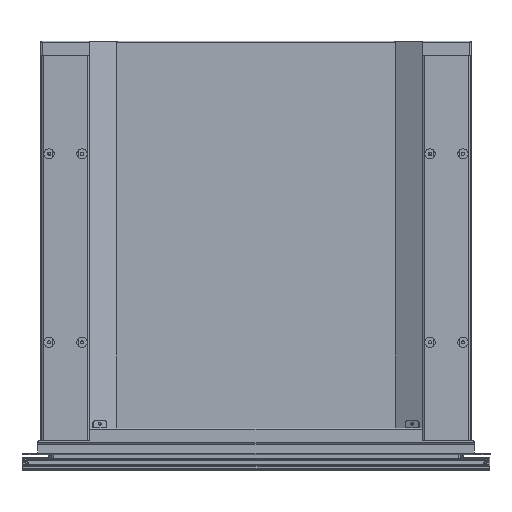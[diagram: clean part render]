
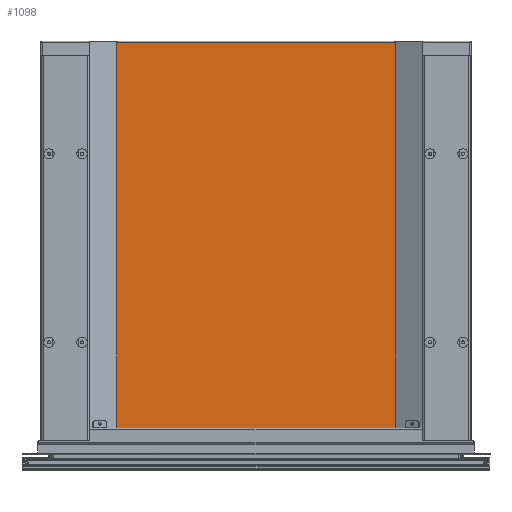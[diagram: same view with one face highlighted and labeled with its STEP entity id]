
A CAD part, top view. The second image highlights one B-rep face of the part: STEP entity #1098.
In plain terms, the highlighted planar face has unit normal (0, 0, 1).
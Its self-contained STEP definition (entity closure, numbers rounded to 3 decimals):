
#1098=ADVANCED_FACE('',(#2463),#19065,.T.);
#2463=FACE_OUTER_BOUND('',#3804,.T.);
#3804=EDGE_LOOP('',(#9112,#9113,#9114,#9115,#9116,#9117,#9118,#9119,#9120,
#9121,#9122,#9123,#9124,#9125));
#9112=ORIENTED_EDGE('',*,*,#12357,.T.);
#9113=ORIENTED_EDGE('',*,*,#12362,.T.);
#9114=ORIENTED_EDGE('',*,*,#12364,.T.);
#9115=ORIENTED_EDGE('',*,*,#12358,.T.);
#9116=ORIENTED_EDGE('',*,*,#12455,.T.);
#9117=ORIENTED_EDGE('',*,*,#12359,.T.);
#9118=ORIENTED_EDGE('',*,*,#12451,.T.);
#9119=ORIENTED_EDGE('',*,*,#12360,.T.);
#9120=ORIENTED_EDGE('',*,*,#12363,.T.);
#9121=ORIENTED_EDGE('',*,*,#12365,.T.);
#9122=ORIENTED_EDGE('',*,*,#12361,.T.);
#9123=ORIENTED_EDGE('',*,*,#12350,.T.);
#9124=ORIENTED_EDGE('',*,*,#12479,.F.);
#9125=ORIENTED_EDGE('',*,*,#12356,.T.);
#12350=EDGE_CURVE('',#17933,#17931,#16062,.T.);
#12356=EDGE_CURVE('',#17936,#17938,#16068,.T.);
#12357=EDGE_CURVE('',#17938,#17939,#16069,.T.);
#12358=EDGE_CURVE('',#17940,#17941,#16070,.T.);
#12359=EDGE_CURVE('',#17942,#17943,#16071,.T.);
#12360=EDGE_CURVE('',#17944,#17945,#16072,.T.);
#12361=EDGE_CURVE('',#17946,#17933,#16073,.T.);
#12362=EDGE_CURVE('',#17939,#17971,#16074,.T.);
#12363=EDGE_CURVE('',#17945,#17969,#16075,.T.);
#12364=EDGE_CURVE('',#17971,#17940,#16076,.T.);
#12365=EDGE_CURVE('',#17969,#17946,#16077,.T.);
#12451=EDGE_CURVE('',#17943,#17944,#16139,.T.);
#12455=EDGE_CURVE('',#17941,#17942,#16143,.T.);
#12479=EDGE_CURVE('',#17936,#17931,#16167,.T.);
#16062=B_SPLINE_CURVE_WITH_KNOTS('',1,(#42090,#42091),.UNSPECIFIED.,.F.,
 .F.,(2,2),(-0.002,0.),.UNSPECIFIED.);
#16068=B_SPLINE_CURVE_WITH_KNOTS('',1,(#42102,#42103),.UNSPECIFIED.,.F.,
 .F.,(2,2),(-0.002,0.),.UNSPECIFIED.);
#16069=B_SPLINE_CURVE_WITH_KNOTS('',1,(#42104,#42105),.UNSPECIFIED.,.F.,
 .F.,(2,2),(0.,521.4),.UNSPECIFIED.);
#16070=B_SPLINE_CURVE_WITH_KNOTS('',1,(#42106,#42107),.UNSPECIFIED.,.F.,
 .F.,(2,2),(0.,9.4),.UNSPECIFIED.);
#16071=B_SPLINE_CURVE_WITH_KNOTS('',1,(#42108,#42109),.UNSPECIFIED.,.F.,
 .F.,(2,2),(0.,14.),.UNSPECIFIED.);
#16072=B_SPLINE_CURVE_WITH_KNOTS('',1,(#42110,#42111),.UNSPECIFIED.,.F.,
 .F.,(2,2),(0.,9.4),.UNSPECIFIED.);
#16073=B_SPLINE_CURVE_WITH_KNOTS('',1,(#42112,#42113),.UNSPECIFIED.,.F.,
 .F.,(2,2),(0.,521.4),.UNSPECIFIED.);
#16074=B_SPLINE_CURVE_WITH_KNOTS('',1,(#42114,#42115),.UNSPECIFIED.,.F.,
 .F.,(2,2),(0.,0.002),.UNSPECIFIED.);
#16075=B_SPLINE_CURVE_WITH_KNOTS('',1,(#42116,#42117),.UNSPECIFIED.,.F.,
 .F.,(2,2),(0.,164.916),.UNSPECIFIED.);
#16076=B_SPLINE_CURVE_WITH_KNOTS('',1,(#42118,#42119),.UNSPECIFIED.,.F.,
 .F.,(2,2),(0.002,164.918),.UNSPECIFIED.);
#16077=B_SPLINE_CURVE_WITH_KNOTS('',1,(#42120,#42121),.UNSPECIFIED.,.F.,
 .F.,(2,2),(164.916,164.918),.UNSPECIFIED.);
#16139=B_SPLINE_CURVE_WITH_KNOTS('',1,(#42316,#42317),.UNSPECIFIED.,.F.,
 .F.,(2,2),(-7.071,0.),.UNSPECIFIED.);
#16143=B_SPLINE_CURVE_WITH_KNOTS('',1,(#42324,#42325),.UNSPECIFIED.,.F.,
 .F.,(2,2),(-7.071,0.),.UNSPECIFIED.);
#16167=B_SPLINE_CURVE_WITH_KNOTS('',1,(#42372,#42373),.UNSPECIFIED.,.F.,
 .F.,(2,2),(0.,353.832),.UNSPECIFIED.);
#17931=VERTEX_POINT('',#41854);
#17933=VERTEX_POINT('',#41856);
#17936=VERTEX_POINT('',#41859);
#17938=VERTEX_POINT('',#41861);
#17939=VERTEX_POINT('',#41862);
#17940=VERTEX_POINT('',#41863);
#17941=VERTEX_POINT('',#41864);
#17942=VERTEX_POINT('',#41865);
#17943=VERTEX_POINT('',#41866);
#17944=VERTEX_POINT('',#41867);
#17945=VERTEX_POINT('',#41868);
#17946=VERTEX_POINT('',#41869);
#17969=VERTEX_POINT('',#41892);
#17971=VERTEX_POINT('',#41894);
#19065=PLANE('',#21370);
#21370=AXIS2_PLACEMENT_3D('',#41688,#24114,$);
#24114=DIRECTION('',(0.,0.,1.));
#41688=CARTESIAN_POINT('',(-212.421,-49.76,-267.8));
#41854=CARTESIAN_POINT('',(176.916,523.9,-267.8));
#41856=CARTESIAN_POINT('',(176.918,523.9,-267.8));
#41859=CARTESIAN_POINT('',(-176.916,523.9,-267.8));
#41861=CARTESIAN_POINT('',(-176.918,523.9,-267.8));
#41862=CARTESIAN_POINT('',(-176.918,2.5,-267.8));
#41863=CARTESIAN_POINT('',(-12.,2.5,-267.8));
#41864=CARTESIAN_POINT('',(-12.,11.9,-267.8));
#41865=CARTESIAN_POINT('',(-7.,16.9,-267.8));
#41866=CARTESIAN_POINT('',(7.,16.9,-267.8));
#41867=CARTESIAN_POINT('',(12.,11.9,-267.8));
#41868=CARTESIAN_POINT('',(12.,2.5,-267.8));
#41869=CARTESIAN_POINT('',(176.918,2.5,-267.8));
#41892=CARTESIAN_POINT('',(176.916,2.5,-267.8));
#41894=CARTESIAN_POINT('',(-176.916,2.5,-267.8));
#42090=CARTESIAN_POINT('',(176.918,523.9,-267.8));
#42091=CARTESIAN_POINT('',(176.916,523.9,-267.8));
#42102=CARTESIAN_POINT('',(-176.916,523.9,-267.8));
#42103=CARTESIAN_POINT('',(-176.918,523.9,-267.8));
#42104=CARTESIAN_POINT('',(-176.918,523.9,-267.8));
#42105=CARTESIAN_POINT('',(-176.918,2.5,-267.8));
#42106=CARTESIAN_POINT('',(-12.,2.5,-267.8));
#42107=CARTESIAN_POINT('',(-12.,11.9,-267.8));
#42108=CARTESIAN_POINT('',(-7.,16.9,-267.8));
#42109=CARTESIAN_POINT('',(7.,16.9,-267.8));
#42110=CARTESIAN_POINT('',(12.,11.9,-267.8));
#42111=CARTESIAN_POINT('',(12.,2.5,-267.8));
#42112=CARTESIAN_POINT('',(176.918,2.5,-267.8));
#42113=CARTESIAN_POINT('',(176.918,523.9,-267.8));
#42114=CARTESIAN_POINT('',(-176.918,2.5,-267.8));
#42115=CARTESIAN_POINT('',(-176.916,2.5,-267.8));
#42116=CARTESIAN_POINT('',(12.,2.5,-267.8));
#42117=CARTESIAN_POINT('',(176.916,2.5,-267.8));
#42118=CARTESIAN_POINT('',(-176.916,2.5,-267.8));
#42119=CARTESIAN_POINT('',(-12.,2.5,-267.8));
#42120=CARTESIAN_POINT('',(176.916,2.5,-267.8));
#42121=CARTESIAN_POINT('',(176.918,2.5,-267.8));
#42316=CARTESIAN_POINT('',(7.,16.9,-267.8));
#42317=CARTESIAN_POINT('',(12.,11.9,-267.8));
#42324=CARTESIAN_POINT('',(-12.,11.9,-267.8));
#42325=CARTESIAN_POINT('',(-7.,16.9,-267.8));
#42372=CARTESIAN_POINT('',(-176.916,523.9,-267.8));
#42373=CARTESIAN_POINT('',(176.916,523.9,-267.8));
